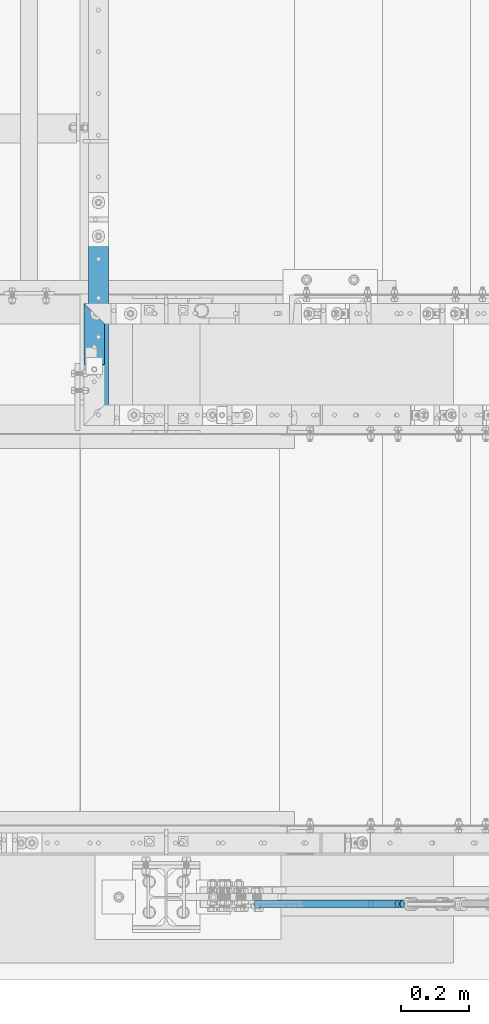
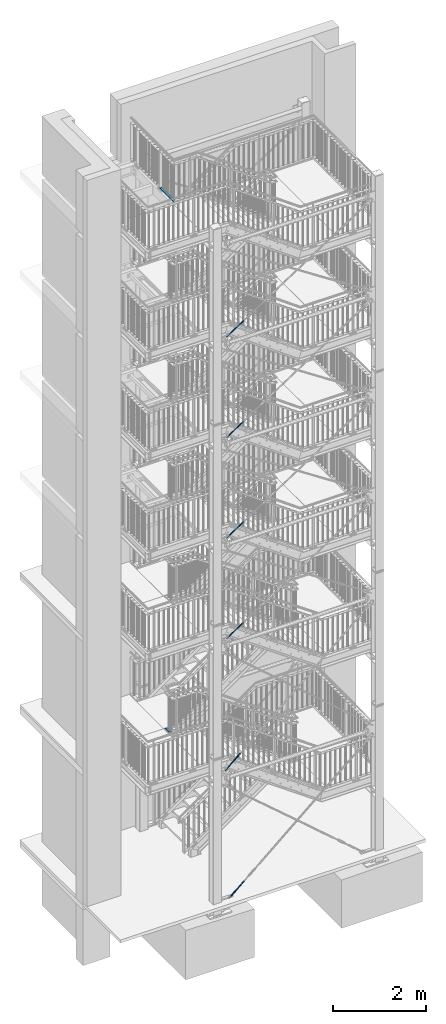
# One storey, part 134 of 825: 6 members, 2 beams, 1 opening.
"""IFC2X3 building model written with IfcOpenShell, lengths in millimetres."""

from ifc_helpers import new_model, entity, si_unit, converted_unit, frame, origin, origin_with_axes, origin_2d, place, context, project, spatial, polyline, rectangle, circle, outline, extrude, clip, halfspace, material, element, save


model = new_model("IFC2X3")

# Units and contexts
model_context = context("Model", 3, precision=1e-09, world=origin_with_axes())
ifc_project = project(units=[si_unit("LENGTHUNIT", "METRE", prefix="MILLI"), si_unit("AREAUNIT", "SQUARE_METRE"), si_unit("VOLUMEUNIT", "CUBIC_METRE"), converted_unit("PLANEANGLEUNIT", "DEGREE", entity("IfcPlaneAngleMeasure", 0.01745329), si_unit("PLANEANGLEUNIT", "RADIAN"), dimensions=[0, 0, 0, 0, 0, 0, 0])], contexts=[model_context])

# Site, building, storey
site_placement = place(None, origin_with_axes())
site = spatial("IfcSite", under=ifc_project, at=site_placement, Name="Cnopf'sche Kinderklinik", CompositionType="ELEMENT")
building_placement = place(site_placement, origin_with_axes())
building = spatial("IfcBuilding", under=site, at=building_placement, Name="Struktur 1", CompositionType="ELEMENT")
storey_placement = place(building_placement, origin_with_axes())
storey = spatial("IfcBuildingStorey", under=building, at=storey_placement, Name="Default Storey", CompositionType="ELEMENT", Elevation=0.0)

# Members
ifc_material = material(Name="S235JR")
for number, where, z_axis, x_axis in (
    (1, (5175.777044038, 4346.736971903, 334.665258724), (-0.757867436, 0.0, -0.652408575), (0.652408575, 0.0, -0.757867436)),
    (2, (5121.628832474, 4346.736971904, 7158.879629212), (-0.836006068, 0.0, -0.548720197), (0.548720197, 0.0, -0.836006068)),
    (3, (5082.966649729, 4346.736971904, 3707.954491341), (-0.755906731, 0.0, -0.654679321), (0.654679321, 0.0, -0.755906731)),
    (4, (5121.780223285, 4346.736971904, 9790.648476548), (-0.836484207, 0.0, -0.547991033), (0.547991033, 0.0, -0.836484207)),
    (5, (5121.538060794, 4346.736971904, 12418.018208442), (-0.835719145, 0.0, -0.549157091), (0.549157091, 0.0, -0.835719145)),
    (6, (5121.992412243, 4346.736971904, 15052.324436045), (-0.837153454, 0.0, -0.546968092), (0.546968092, 0.0, -0.837153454)),
):
    element("IfcMember", number, at=place(None, frame(where, z_axis=z_axis, x_axis=x_axis)), inside=storey, material=ifc_material, Name="-", ObjectType="-", context=model_context, shape_type="SweptSolid", body=[
        extrude(circle(Radius=11.0, at=origin_2d()), origin(), (0.0, 0.0, -1.0), 500.0),
    ])

# Beam
beam_1_placement = place(None, frame((4644.213402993, 5941.736971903, 3912.0), z_axis=(0.0, -1.0, 0.0), x_axis=(0.0, 0.0, -1.0)))
element("IfcBeam", 7, at=beam_1_placement, inside=storey, material=ifc_material, Name="Railing_Kneerail_Landing#7", ObjectType="Railing_Kneerail_Landing#7", context=model_context, shape_type="Clipping", body=[
    clip(extrude(rectangle(XDim=10.0, YDim=60.0, at=origin_2d()), origin(), (0.0, 0.0, -1.0), 223.011626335), halfspace(frame((3912.0, 723.761077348, 573.762491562), z_axis=(0.0, -0.707106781, 0.707106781), x_axis=(0.0, 0.707106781, 0.707106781)), True)),
])

# Beam, opening
beam_2_placement = place(None, frame((4656.713402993, 5748.725345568, 17899.0), z_axis=(0.0, -1.0, 0.0), x_axis=(0.0, 0.0, -1.0)))
beam_2 = element("IfcBeam", 8, at=beam_2_placement, inside=storey, material=ifc_material, Name="Railing_Kneerail_Landing#6", ObjectType="Railing_Kneerail_Landing#6", context=model_context, shape_type="Clipping", body=[
    clip(extrude(rectangle(XDim=10.0, YDim=60.0, at=origin_2d()), origin(), (0.0, 0.0, -1.0), 621.761376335), halfspace(frame((17899.0, -5224.225894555, 5181.212854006), z_axis=(0.0, -0.707106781, -0.707106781), x_axis=(0.0, -0.707106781, 0.707106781)), True)),
])
opening_placement = place(beam_2_placement, frame((60.0, 30.0, -629.261376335), z_axis=(-1.0, 0.0, 0.0), x_axis=(0.0, 1.0, 0.0)))
element("IfcOpeningElement", 9, at=opening_placement, cuts=beam_2, ObjectType="Opening", context=model_context, shape_type="SweptSolid", body=[
    extrude(outline(polyline([(0.001, 0.001), (-60.001, 0.001), (-60.001, -15.001), (0.001, -15.001), (0.001, 0.001)])), origin(), (0.0, 0.0, 1.0), 120.0),
])

save(model, "model.ifc")
